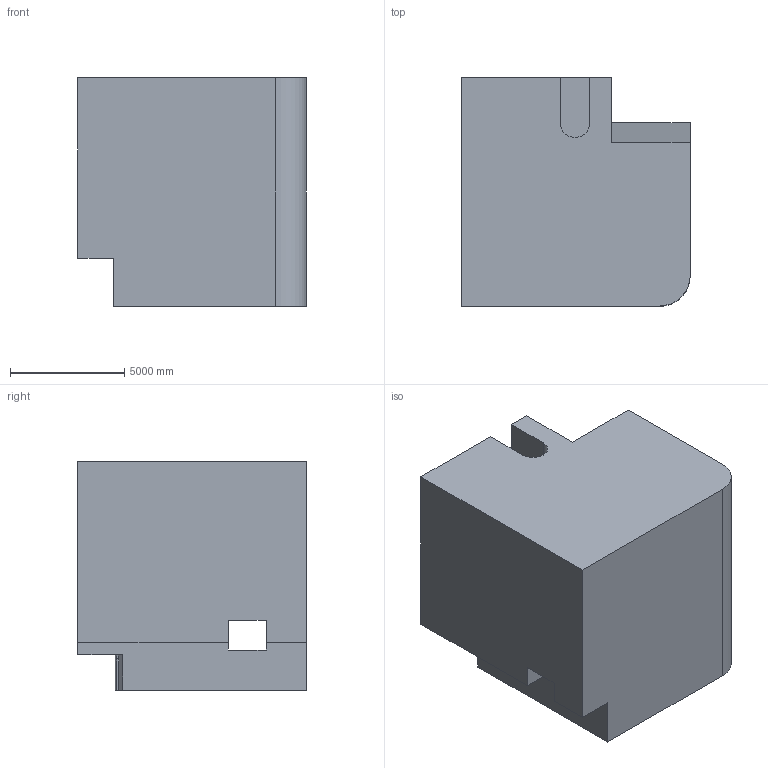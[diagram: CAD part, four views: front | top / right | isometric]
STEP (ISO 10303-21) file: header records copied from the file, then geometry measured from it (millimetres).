
FILE_DESCRIPTION (( 'STEP AP203' ), '1' );
FILE_NAME ('1755.STEP', '2022-08-19T12:25:55', ( 'user' ), ( '' ), 'SwSTEP 2.0', 'SolidWorks 2021', '' );
FILE_SCHEMA (( 'CONFIG_CONTROL_DESIGN' ));
Length unit declared in the file: centimetre
Products named in the file (1): 1755
Bounding box: 10000 x 10000 x 10000 mm (x, y, z)
Volume: 808146537050.9 mm3; surface area: 669250969.3 mm2
Topology: 1 solids, 1 shells, 33 faces, 93 edges, 62 vertices
Faces by surface type: plane 27, cylinder 6
Entity records: 1140 total; most frequent: CARTESIAN_POINT 195, ORIENTED_EDGE 186, DIRECTION 171, EDGE_CURVE 93, LINE 79, VECTOR 79, VERTEX_POINT 62, AXIS2_PLACEMENT_3D 46
